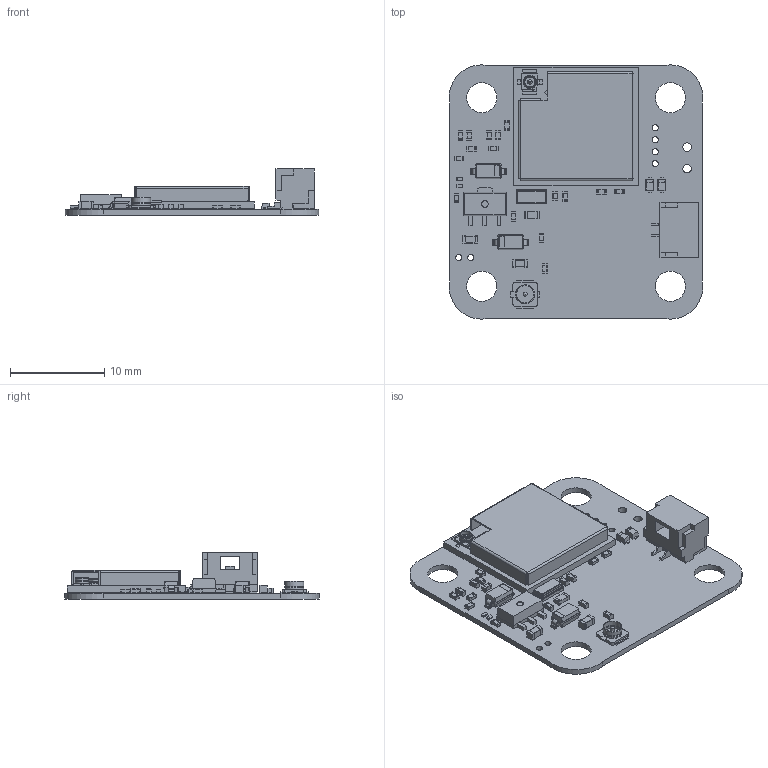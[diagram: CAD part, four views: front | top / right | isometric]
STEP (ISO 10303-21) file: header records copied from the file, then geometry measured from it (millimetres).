
FILE_DESCRIPTION(('KiCad electronic assembly'),'2;1');
FILE_NAME('db152.step','2025-02-21T17:20:04',('Pcbnew'),('Kicad'), 'Open CASCADE STEP processor 7.9','KiCad to STEP converter','Unknown' );
FILE_SCHEMA(('AUTOMOTIVE_DESIGN { 1 0 10303 214 1 1 1 1 }'));
Length unit declared in the file: millimetre
Products named in the file (28): db152 1; C_0402_1005Metric; R_0603_1608Metric; R_0402_1005Metric; LED_0201_0603Metric; D_SOD-123; D_SOD_123; C_0603_1608Metric; JST_GH_SM02B-GHS-TB_1x02-1MP_P1.25mm_Horizontal; JST_SM02B_GHS_TB; D_SOD-523; D_SOD_523; U.FL_Hirose_U.FL-R-SMT-1_Vertical; ESP32-C3-MINI-1U; ESP32-C3-MINI-1U_20210906; L_0402_1005Metric; Crystal_SMD_3215-2Pin_3.2x1.5mm; SOT-89-3; CQ assembly; dronebeacon_PCB
Assembly tree (44 placements, depth 3):
  db152 1
    C_0402_1005Metric  x6
      C_0402_1005Metric
    R_0603_1608Metric
      R_0603_1608Metric
    R_0402_1005Metric  x8
      R_0402_1005Metric
    LED_0201_0603Metric  x2
      LED_0201_0603Metric
    D_SOD-123  x2
      D_SOD_123
    C_0603_1608Metric  x2
      C_0603_1608Metric
    JST_GH_SM02B-GHS-TB_1x02-1MP_P1.25mm_Horizontal
      JST_SM02B_GHS_TB
    D_SOD-523  x2
      D_SOD_523
    U.FL_Hirose_U.FL-R-SMT-1_Vertical
      U.FL_Hirose_U.FL-R-SMT-1_Vertical
    ESP32-C3-MINI-1U
      ESP32-C3-MINI-1U_20210906
    L_0402_1005Metric  x2
      L_0402_1005Metric
    Crystal_SMD_3215-2Pin_3.2x1.5mm
      Crystal_SMD_3215-2Pin_3.2x1.5mm
    SOT-89-3
      CQ assembly
    dronebeacon_PCB
Bounding box: 26.9 x 26.95 x 4.89 mm (x, y, z)
Volume: 690.5 mm3; surface area: 2945.8 mm2
Topology: 214 solids, 215 shells, 3486 faces, 8384 edges, 5308 vertices
Faces by surface type: plane 2354, cylinder 839, bspline 126, sphere 113, torus 40, cone 12, revolution 2
Full cylindrical faces by diameter (mm): 0.4 x1, 0.65 x6, 0.7 x1, 0.9 x2, 1.8 x1, 1.92 x1, 2 x2, 3.2 x4
Entity records: 94186 total; most frequent: CARTESIAN_POINT 18917, DIRECTION 14171, ORIENTED_EDGE 14044, EDGE_CURVE 7022, LINE 5405, VECTOR 5405, VERTEX_POINT 4502, AXIS2_PLACEMENT_3D 4382
